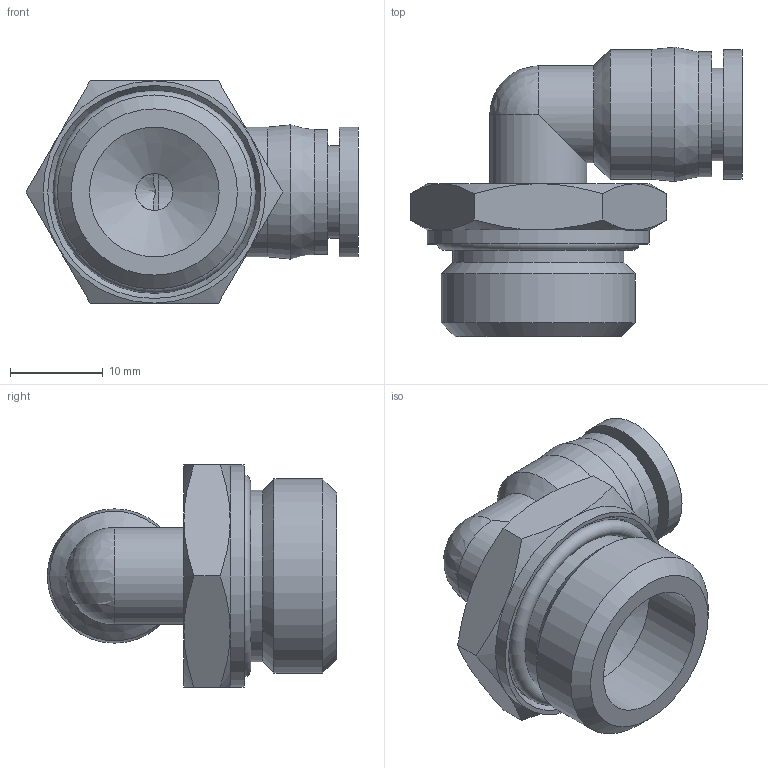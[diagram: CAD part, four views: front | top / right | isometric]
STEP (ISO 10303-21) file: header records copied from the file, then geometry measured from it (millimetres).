
FILE_DESCRIPTION(/* description */ (''),/* implementation_level */ '2;1');
FILE_NAME(/* name */ 'S:\_Tecnico\ArchivioUT\DISEGNI\DISEGNI 3D per ingombri\RP\RP 72\RP721208.stp',/* time_stamp */ '2019-04-16T11:12:44+02:00',/* author */ ('UfficioTecnico'),/* organization */ (''),/* preprocessor_version */ 'ST-DEVELOPER v16.1',/* originating_system */ 'Autodesk Inventor 2016',/* authorisation */ '');
FILE_SCHEMA (('AUTOMOTIVE_DESIGN { 1 0 10303 214 3 1 1 }'));
Length unit declared in the file: millimetre
Products named in the file (1): RP721208
Bounding box: 35.86 x 31.25 x 24 mm (x, y, z)
Volume: 7073.5 mm3; surface area: 4942 mm2
Topology: 1 solids, 3 shells, 51 faces, 110 edges, 64 vertices
Faces by surface type: cone 21, plane 14, cylinder 13, torus 2, sphere 1
Full cylindrical faces by diameter (mm): 4 x1, 8 x1, 10 x1, 10.5 x2, 13.5 x1, 14 x3, 18.5 x2, 20.955 x1, 24 x1
Entity records: 1240 total; most frequent: CARTESIAN_POINT 292, DIRECTION 194, ORIENTED_EDGE 156, AXIS2_PLACEMENT_3D 94, EDGE_LOOP 81, EDGE_CURVE 76, VERTEX_POINT 55, FACE_OUTER_BOUND 51
